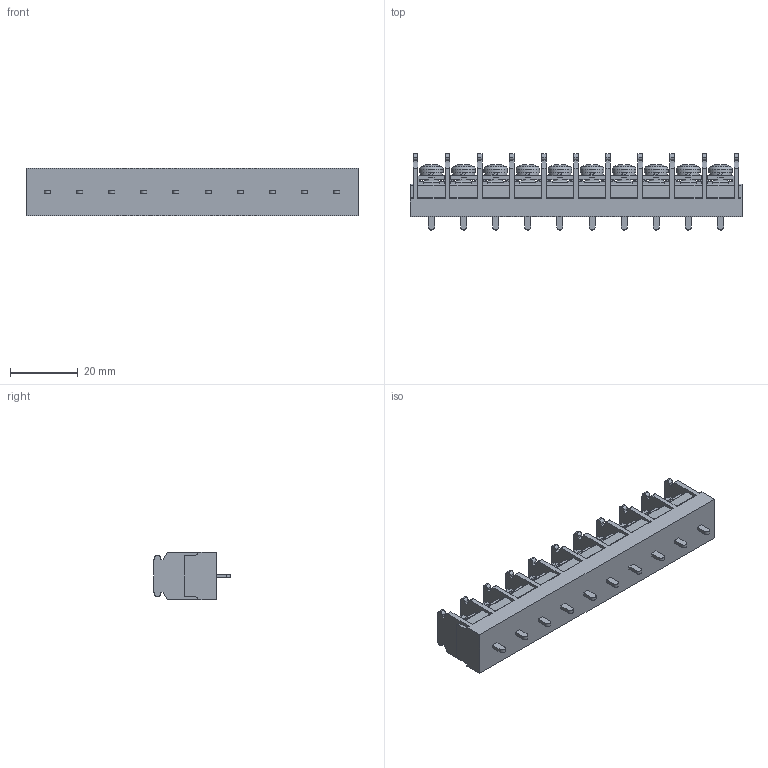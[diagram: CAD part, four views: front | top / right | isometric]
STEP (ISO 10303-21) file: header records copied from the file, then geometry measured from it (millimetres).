
FILE_DESCRIPTION(/* description */ ('Alibre Inc.'),/* implementation_level */ '2;1');
FILE_NAME(/* name */ 'export-D18363B6-1791-4E5B-8D2B-729B1C8A6BD6',/* time_stamp */ '2021-02-13T14:04:24+09:00',/* author */ (''),/* organization */ (''),/* preprocessor_version */ 'ST-DEVELOPER v17',/* originating_system */ 'Alibre',/* authorisation */ '');
FILE_SCHEMA (('CONFIG_CONTROL_DESIGN'));
Length unit declared in the file: millimetre
Bounding box: 98.2 x 22.5 x 14 mm (x, y, z)
Volume: 16649.1 mm3; surface area: 11258.3 mm2
Topology: 1 solids, 27 shells, 1560 faces, 4388 edges, 2882 vertices
Faces by surface type: plane 1160, cylinder 216, bspline 104, cone 50, torus 20, sphere 10
Full cylindrical faces by diameter (mm): 4 x20, 7 x10
Entity records: 47921 total; most frequent: CARTESIAN_POINT 9786, ORIENTED_EDGE 8616, DIRECTION 6324, EDGE_CURVE 4308, VECTOR 3128, LINE 3128, VERTEX_POINT 2862, AXIS2_PLACEMENT_3D 2148
